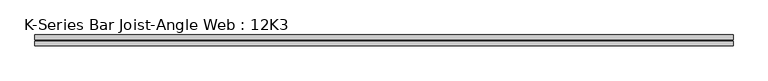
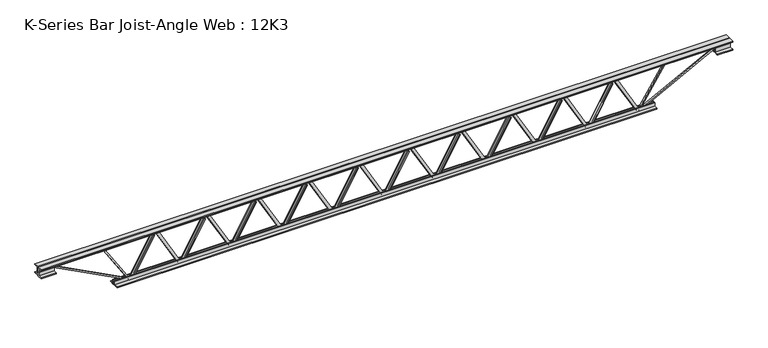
"""IFC4 building model written with IfcOpenShell, lengths in millimetres: beam geometry, K-Series Bar Joist-Angle Web : 12K3."""

from ifc_helpers import new_model, si_unit, frame, origin, place, context, project, spatial, polyline, outline, extrude, faceted_brep, source, transform, mapped, element, save


def k_series_bar_joist_angle_web_12k3_374ad39a(model_context):
    return source(origin(), model_context, "Body", "SolidModel", [
        extrude(outline(polyline([(-4.7625, 4.7625001), (-4.7625, 0.0), (-17.4625, 0.0), (-17.4625, 4.7625001), (-4.7625, 4.7625001)])), frame((1334.2159255, 0.0, -114.3), z_axis=(-0.4921387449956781, 0.0, 0.8705167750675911), x_axis=(0.0, -1.0, 0.0)), (0.0, 0.0, 1.0), 262.6026362),
        extrude(outline(polyline([(-149.225, 1365.8673611), (-130.175, 1365.8673611), (-130.175, 1365.0742655), (149.225, 1207.1180155), (149.225, 1188.8611111), (130.175, 1188.8611111), (130.175, 1196.0042068), (-149.225, 1353.9604568), (-149.225, 1365.8673611)])), frame((0.0, 0.0, 0.0), z_axis=(0.0, 1.0, 0.0), x_axis=(0.0, 0.0, 1.0)), (0.0, 0.0, 1.0), 4.7625),
        faceted_brep([(1024.5548611, 0.0, -130.175), (1024.5548611, 0.0, -149.225), (1024.5548611, -4.7625, -149.225), (1024.5548611, -4.7625, -130.175), (1025.3479568, 0.0, -130.175), (1183.3042068, 0.0, 149.225), (1201.5611111, 0.0, 149.225), (1201.5611111, 0.0, 130.175), (1194.4180155, 0.0, 130.175), (1036.4617655, 0.0, -149.225), (1036.4617655, -4.7625, -149.225), (1056.2062967, -4.7625, -114.3), (1052.0604606, -4.7625, -111.9561892), (1181.2973924, -4.7625, 116.6438108), (1185.4432285, -4.7625, 114.3), (1194.4180155, -4.7625, 130.175), (1201.5611111, -4.7625, 130.175), (1201.5611111, -4.7625, 149.225), (1183.3042068, -4.7625, 149.225), (1025.3479568, -4.7625, -130.175), (1185.4432285, -17.4625, 114.3), (1056.2062967, -17.4625, -114.3), (1052.0604606, -17.4625, -111.9561892), (1181.2973924, -17.4625, 116.6438108)], [[[0, 1, 2, 3]], [[1, 0, 4, 5, 6, 7, 8, 9]], [[2, 1, 9, 10]], [[3, 2, 10, 11, 12, 13, 14, 15, 16, 17, 18, 19]], [[0, 3, 19, 4]], [[9, 8, 15, 14, 20, 21, 11, 10]], [[5, 4, 19, 18]], [[7, 6, 17, 16]], [[8, 7, 16, 15]], [[6, 5, 18, 17]], [[21, 22, 12, 11]], [[20, 14, 13, 23]], [[22, 21, 20, 23]], [[12, 22, 23, 13]]]),
        extrude(outline(polyline([(-4.7625, 4.7625001), (-4.7625, 0.0), (-17.4625, 0.0), (-17.4625, 4.7625001), (-4.7625, 4.7625001)])), frame((992.7270366, 0.0, -114.3), z_axis=(-0.4921387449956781, 0.0, 0.8705167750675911), x_axis=(0.0, -1.0, 0.0)), (0.0, 0.0, 1.0), 262.6026362),
        extrude(outline(polyline([(-149.225, 1024.3784722), (-130.175, 1024.3784722), (-130.175, 1023.5853766), (149.225, 865.6291266), (149.225, 847.3722222), (130.175, 847.3722222), (130.175, 854.5153179), (-149.225, 1012.4715679), (-149.225, 1024.3784722)])), frame((0.0, 0.0, 0.0), z_axis=(0.0, 1.0, 0.0), x_axis=(0.0, 0.0, 1.0)), (0.0, 0.0, 1.0), 4.7625),
        faceted_brep([(683.0659722, 0.0, -130.175), (683.0659722, 0.0, -149.225), (683.0659722, -4.7625, -149.225), (683.0659722, -4.7625, -130.175), (683.8590679, 0.0, -130.175), (841.8153179, 0.0, 149.225), (860.0722222, 0.0, 149.225), (860.0722222, 0.0, 130.175), (852.9291266, 0.0, 130.175), (694.9728766, 0.0, -149.225), (694.9728766, -4.7625, -149.225), (714.7174078, -4.7625, -114.3), (710.5715717, -4.7625, -111.9561892), (839.8085035, -4.7625, 116.6438108), (843.9543396, -4.7625, 114.3), (852.9291266, -4.7625, 130.175), (860.0722222, -4.7625, 130.175), (860.0722222, -4.7625, 149.225), (841.8153179, -4.7625, 149.225), (683.8590679, -4.7625, -130.175), (843.9543396, -17.4625, 114.3), (714.7174078, -17.4625, -114.3), (710.5715717, -17.4625, -111.9561892), (839.8085035, -17.4625, 116.6438108)], [[[0, 1, 2, 3]], [[1, 0, 4, 5, 6, 7, 8, 9]], [[2, 1, 9, 10]], [[3, 2, 10, 11, 12, 13, 14, 15, 16, 17, 18, 19]], [[0, 3, 19, 4]], [[9, 8, 15, 14, 20, 21, 11, 10]], [[5, 4, 19, 18]], [[7, 6, 17, 16]], [[8, 7, 16, 15]], [[6, 5, 18, 17]], [[21, 22, 12, 11]], [[20, 14, 13, 23]], [[22, 21, 20, 23]], [[12, 22, 23, 13]]]),
        extrude(outline(polyline([(-4.7625, 4.7625001), (-4.7625, 0.0), (-17.4625, 0.0), (-17.4625, 4.7625001), (-4.7625, 4.7625001)])), frame((651.2381477, 0.0, -114.3), z_axis=(-0.4921387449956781, 0.0, 0.8705167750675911), x_axis=(0.0, -1.0, 0.0)), (0.0, 0.0, 1.0), 262.6026362),
        extrude(outline(polyline([(-149.225, 682.8895833), (-130.175, 682.8895833), (-130.175, 682.0964877), (149.225, 524.1402377), (149.225, 505.8833333), (130.175, 505.8833333), (130.175, 513.026429), (-149.225, 670.982679), (-149.225, 682.8895833)])), frame((0.0, 0.0, 0.0), z_axis=(0.0, 1.0, 0.0), x_axis=(0.0, 0.0, 1.0)), (0.0, 0.0, 1.0), 4.7625),
        faceted_brep([(341.5770833, 0.0, -130.175), (341.5770833, 0.0, -149.225), (341.5770833, -4.7625, -149.225), (341.5770833, -4.7625, -130.175), (342.370179, 0.0, -130.175), (500.326429, 0.0, 149.225), (518.5833333, 0.0, 149.225), (518.5833333, 0.0, 130.175), (511.4402377, 0.0, 130.175), (353.4839877, 0.0, -149.225), (353.4839877, -4.7625, -149.225), (373.2285189, -4.7625, -114.3), (369.0826828, -4.7625, -111.9561892), (498.3196146, -4.7625, 116.6438108), (502.4654508, -4.7625, 114.3), (511.4402377, -4.7625, 130.175), (518.5833333, -4.7625, 130.175), (518.5833333, -4.7625, 149.225), (500.326429, -4.7625, 149.225), (342.370179, -4.7625, -130.175), (502.4654508, -17.4625, 114.3), (373.2285189, -17.4625, -114.3), (369.0826828, -17.4625, -111.9561892), (498.3196146, -17.4625, 116.6438108)], [[[0, 1, 2, 3]], [[1, 0, 4, 5, 6, 7, 8, 9]], [[2, 1, 9, 10]], [[3, 2, 10, 11, 12, 13, 14, 15, 16, 17, 18, 19]], [[0, 3, 19, 4]], [[9, 8, 15, 14, 20, 21, 11, 10]], [[5, 4, 19, 18]], [[7, 6, 17, 16]], [[8, 7, 16, 15]], [[6, 5, 18, 17]], [[21, 22, 12, 11]], [[20, 14, 13, 23]], [[22, 21, 20, 23]], [[12, 22, 23, 13]]]),
        extrude(outline(polyline([(-4.7625, 4.7625001), (-4.7625, 0.0), (-17.4625, 0.0), (-17.4625, 4.7625001), (-4.7625, 4.7625001)])), frame((309.7492588, 0.0, -114.3), z_axis=(-0.4921387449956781, 0.0, 0.8705167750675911), x_axis=(0.0, -1.0, 0.0)), (0.0, 0.0, 1.0), 262.6026362),
        extrude(outline(polyline([(-149.225, 341.4006944), (-130.175, 341.4006944), (-130.175, 340.6075988), (149.225, 182.6513488), (149.225, 164.3944444), (130.175, 164.3944444), (130.175, 171.5375401), (-149.225, 329.4937901), (-149.225, 341.4006944)])), frame((0.0, 0.0, 0.0), z_axis=(0.0, 1.0, 0.0), x_axis=(0.0, 0.0, 1.0)), (0.0, 0.0, 1.0), 4.7625),
        faceted_brep([(0.0881944, 0.0, -130.175), (0.0881944, 0.0, -149.225), (0.0881944, -4.7625, -149.225), (0.0881944, -4.7625, -130.175), (0.8812901, 0.0, -130.175), (158.8375401, 0.0, 149.225), (177.0944444, 0.0, 149.225), (177.0944444, 0.0, 130.175), (169.9513488, 0.0, 130.175), (11.9950988, 0.0, -149.225), (11.9950988, -4.7625, -149.225), (31.73963, -4.7625, -114.3), (27.5937939, -4.7625, -111.9561892), (156.8307257, -4.7625, 116.6438108), (160.9765619, -4.7625, 114.3), (169.9513488, -4.7625, 130.175), (177.0944444, -4.7625, 130.175), (177.0944444, -4.7625, 149.225), (158.8375401, -4.7625, 149.225), (0.8812901, -4.7625, -130.175), (160.9765619, -17.4625, 114.3), (31.73963, -17.4625, -114.3), (27.5937939, -17.4625, -111.9561892), (156.8307257, -17.4625, 116.6438108)], [[[0, 1, 2, 3]], [[1, 0, 4, 5, 6, 7, 8, 9]], [[2, 1, 9, 10]], [[3, 2, 10, 11, 12, 13, 14, 15, 16, 17, 18, 19]], [[0, 3, 19, 4]], [[9, 8, 15, 14, 20, 21, 11, 10]], [[5, 4, 19, 18]], [[7, 6, 17, 16]], [[8, 7, 16, 15]], [[6, 5, 18, 17]], [[21, 22, 12, 11]], [[20, 14, 13, 23]], [[22, 21, 20, 23]], [[12, 22, 23, 13]]]),
        extrude(outline(polyline([(-4.7625, 4.7625), (-4.7625, 0.0), (-17.4625, 0.0), (-17.4625, 4.7625), (-4.7625, 4.7625)])), frame((-31.73963, 0.0, -114.3), z_axis=(-0.4921387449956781, 0.0, 0.8705167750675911), x_axis=(0.0, -1.0, 0.0)), (0.0, 0.0, 1.0), 262.6026362),
        extrude(outline(polyline([(-149.225, -0.0881944), (-130.175, -0.0881944), (-130.175, -0.8812901), (149.225, -158.8375401), (149.225, -177.0944444), (130.175, -177.0944444), (130.175, -169.9513488), (-149.225, -11.9950988), (-149.225, -0.0881944)])), frame((0.0, 0.0, 0.0), z_axis=(0.0, 1.0, 0.0), x_axis=(0.0, 0.0, 1.0)), (0.0, 0.0, 1.0), 4.7625),
        faceted_brep([(-341.4006944, 0.0, -130.175), (-341.4006944, 0.0, -149.225), (-341.4006944, -4.7625, -149.225), (-341.4006944, -4.7625, -130.175), (-340.6075988, 0.0, -130.175), (-182.6513488, 0.0, 149.225), (-164.3944444, 0.0, 149.225), (-164.3944444, 0.0, 130.175), (-171.5375401, 0.0, 130.175), (-329.4937901, 0.0, -149.225), (-329.4937901, -4.7625, -149.225), (-309.7492588, -4.7625, -114.3), (-313.895095, -4.7625, -111.9561892), (-184.6581632, -4.7625, 116.6438108), (-180.512327, -4.7625, 114.3), (-171.5375401, -4.7625, 130.175), (-164.3944444, -4.7625, 130.175), (-164.3944444, -4.7625, 149.225), (-182.6513488, -4.7625, 149.225), (-340.6075988, -4.7625, -130.175), (-180.512327, -17.4625, 114.3), (-309.7492588, -17.4625, -114.3), (-313.895095, -17.4625, -111.9561892), (-184.6581632, -17.4625, 116.6438108)], [[[0, 1, 2, 3]], [[1, 0, 4, 5, 6, 7, 8, 9]], [[2, 1, 9, 10]], [[3, 2, 10, 11, 12, 13, 14, 15, 16, 17, 18, 19]], [[0, 3, 19, 4]], [[9, 8, 15, 14, 20, 21, 11, 10]], [[5, 4, 19, 18]], [[7, 6, 17, 16]], [[8, 7, 16, 15]], [[6, 5, 18, 17]], [[21, 22, 12, 11]], [[20, 14, 13, 23]], [[22, 21, 20, 23]], [[12, 22, 23, 13]]]),
        extrude(outline(polyline([(-4.7625, 4.7625), (-4.7625, 0.0), (-17.4625, 0.0), (-17.4625, 4.7625), (-4.7625, 4.7625)])), frame((-373.2285189, 0.0, -114.3), z_axis=(-0.4921387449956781, 0.0, 0.8705167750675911), x_axis=(0.0, -1.0, 0.0)), (0.0, 0.0, 1.0), 262.6026362),
        extrude(outline(polyline([(-149.225, -341.5770833), (-130.175, -341.5770833), (-130.175, -342.370179), (149.225, -500.326429), (149.225, -518.5833333), (130.175, -518.5833333), (130.175, -511.4402377), (-149.225, -353.4839877), (-149.225, -341.5770833)])), frame((0.0, 0.0, 0.0), z_axis=(0.0, 1.0, 0.0), x_axis=(0.0, 0.0, 1.0)), (0.0, 0.0, 1.0), 4.7625),
        faceted_brep([(-682.8895833, 0.0, -130.175), (-682.8895833, 0.0, -149.225), (-682.8895833, -4.7625, -149.225), (-682.8895833, -4.7625, -130.175), (-682.0964877, 0.0, -130.175), (-524.1402377, 0.0, 149.225), (-505.8833333, 0.0, 149.225), (-505.8833333, 0.0, 130.175), (-513.026429, 0.0, 130.175), (-670.982679, 0.0, -149.225), (-670.982679, -4.7625, -149.225), (-651.2381477, -4.7625, -114.3), (-655.3839839, -4.7625, -111.9561892), (-526.1470521, -4.7625, 116.6438108), (-522.0012159, -4.7625, 114.3), (-513.026429, -4.7625, 130.175), (-505.8833333, -4.7625, 130.175), (-505.8833333, -4.7625, 149.225), (-524.1402377, -4.7625, 149.225), (-682.0964877, -4.7625, -130.175), (-522.0012159, -17.4625, 114.3), (-651.2381477, -17.4625, -114.3), (-655.3839839, -17.4625, -111.9561892), (-526.1470521, -17.4625, 116.6438108)], [[[0, 1, 2, 3]], [[1, 0, 4, 5, 6, 7, 8, 9]], [[2, 1, 9, 10]], [[3, 2, 10, 11, 12, 13, 14, 15, 16, 17, 18, 19]], [[0, 3, 19, 4]], [[9, 8, 15, 14, 20, 21, 11, 10]], [[5, 4, 19, 18]], [[7, 6, 17, 16]], [[8, 7, 16, 15]], [[6, 5, 18, 17]], [[21, 22, 12, 11]], [[20, 14, 13, 23]], [[22, 21, 20, 23]], [[12, 22, 23, 13]]]),
        extrude(outline(polyline([(-4.7625, 4.7625), (-4.7625, 0.0), (-17.4625, 0.0), (-17.4625, 4.7625), (-4.7625, 4.7625)])), frame((-714.7174078, 0.0, -114.3), z_axis=(-0.4921387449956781, 0.0, 0.8705167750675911), x_axis=(0.0, -1.0, 0.0)), (0.0, 0.0, 1.0), 262.6026362),
        extrude(outline(polyline([(-149.225, -683.0659722), (-130.175, -683.0659722), (-130.175, -683.8590679), (149.225, -841.8153179), (149.225, -860.0722222), (130.175, -860.0722222), (130.175, -852.9291266), (-149.225, -694.9728766), (-149.225, -683.0659722)])), frame((0.0, 0.0, 0.0), z_axis=(0.0, 1.0, 0.0), x_axis=(0.0, 0.0, 1.0)), (0.0, 0.0, 1.0), 4.7625),
        faceted_brep([(-1024.3784722, 0.0, -130.175), (-1024.3784722, 0.0, -149.225), (-1024.3784722, -4.7625, -149.225), (-1024.3784722, -4.7625, -130.175), (-1023.5853766, 0.0, -130.175), (-865.6291266, 0.0, 149.225), (-847.3722222, 0.0, 149.225), (-847.3722222, 0.0, 130.175), (-854.5153179, 0.0, 130.175), (-1012.4715679, 0.0, -149.225), (-1012.4715679, -4.7625, -149.225), (-992.7270366, -4.7625, -114.3), (-996.8728728, -4.7625, -111.9561892), (-867.6359409, -4.7625, 116.6438108), (-863.4901048, -4.7625, 114.3), (-854.5153179, -4.7625, 130.175), (-847.3722222, -4.7625, 130.175), (-847.3722222, -4.7625, 149.225), (-865.6291266, -4.7625, 149.225), (-1023.5853766, -4.7625, -130.175), (-863.4901048, -17.4625, 114.3), (-992.7270366, -17.4625, -114.3), (-996.8728728, -17.4625, -111.9561892), (-867.6359409, -17.4625, 116.6438108)], [[[0, 1, 2, 3]], [[1, 0, 4, 5, 6, 7, 8, 9]], [[2, 1, 9, 10]], [[3, 2, 10, 11, 12, 13, 14, 15, 16, 17, 18, 19]], [[0, 3, 19, 4]], [[9, 8, 15, 14, 20, 21, 11, 10]], [[5, 4, 19, 18]], [[7, 6, 17, 16]], [[8, 7, 16, 15]], [[6, 5, 18, 17]], [[21, 22, 12, 11]], [[20, 14, 13, 23]], [[22, 21, 20, 23]], [[12, 22, 23, 13]]]),
        extrude(outline(polyline([(-4.7625, 4.7625), (-4.7625, 0.0), (-17.4625, 0.0), (-17.4625, 4.7625), (-4.7625, 4.7625)])), frame((-1056.2062967, 0.0, -114.3), z_axis=(-0.4921387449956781, 0.0, 0.8705167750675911), x_axis=(0.0, -1.0, 0.0)), (0.0, 0.0, 1.0), 262.6026362),
        extrude(outline(polyline([(-149.225, -1024.5548611), (-130.175, -1024.5548611), (-130.175, -1025.3479568), (149.225, -1183.3042068), (149.225, -1201.5611111), (130.175, -1201.5611111), (130.175, -1194.4180155), (-149.225, -1036.4617655), (-149.225, -1024.5548611)])), frame((0.0, 0.0, 0.0), z_axis=(0.0, 1.0, 0.0), x_axis=(0.0, 0.0, 1.0)), (0.0, 0.0, 1.0), 4.7625),
        faceted_brep([(-1365.8673611, 0.0, -130.175), (-1365.8673611, 0.0, -149.225), (-1365.8673611, -4.7625, -149.225), (-1365.8673611, -4.7625, -130.175), (-1365.0742655, 0.0, -130.175), (-1207.1180155, 0.0, 149.225), (-1188.8611111, 0.0, 149.225), (-1188.8611111, 0.0, 130.175), (-1196.0042068, 0.0, 130.175), (-1353.9604568, 0.0, -149.225), (-1353.9604568, -4.7625, -149.225), (-1334.2159255, -4.7625, -114.3), (-1338.3617617, -4.7625, -111.9561892), (-1209.1248298, -4.7625, 116.6438108), (-1204.9789937, -4.7625, 114.3), (-1196.0042068, -4.7625, 130.175), (-1188.8611111, -4.7625, 130.175), (-1188.8611111, -4.7625, 149.225), (-1207.1180155, -4.7625, 149.225), (-1365.0742655, -4.7625, -130.175), (-1204.9789937, -17.4625, 114.3), (-1334.2159255, -17.4625, -114.3), (-1338.3617617, -17.4625, -111.9561892), (-1209.1248298, -17.4625, 116.6438108)], [[[0, 1, 2, 3]], [[1, 0, 4, 5, 6, 7, 8, 9]], [[2, 1, 9, 10]], [[3, 2, 10, 11, 12, 13, 14, 15, 16, 17, 18, 19]], [[0, 3, 19, 4]], [[9, 8, 15, 14, 20, 21, 11, 10]], [[5, 4, 19, 18]], [[7, 6, 17, 16]], [[8, 7, 16, 15]], [[6, 5, 18, 17]], [[21, 22, 12, 11]], [[20, 14, 13, 23]], [[22, 21, 20, 23]], [[12, 22, 23, 13]]]),
        extrude(outline(polyline([(-4.7625, 4.7625), (-4.7625, 0.0), (-17.4625, 0.0), (-17.4625, 4.7625), (-4.7625, 4.7625)])), frame((1675.7048144, 0.0, -114.3), z_axis=(-0.4921387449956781, 0.0, 0.8705167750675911), x_axis=(0.0, -1.0, 0.0)), (0.0, 0.0, 1.0), 262.6026362),
        extrude(outline(polyline([(-149.225, 1707.35625), (-130.175, 1707.35625), (-130.175, 1706.5631543), (149.225, 1548.6069043), (149.225, 1530.35), (130.175, 1530.35), (130.175, 1537.4930957), (-149.225, 1695.4493457), (-149.225, 1707.35625)])), frame((0.0, 0.0, 0.0), z_axis=(0.0, 1.0, 0.0), x_axis=(0.0, 0.0, 1.0)), (0.0, 0.0, 1.0), 4.7625),
        faceted_brep([(1366.04375, 0.0, -130.175), (1366.04375, 0.0, -149.225), (1366.04375, -4.7625, -149.225), (1366.04375, -4.7625, -130.175), (1366.8368457, 0.0, -130.175), (1524.7930957, 0.0, 149.225), (1543.05, 0.0, 149.225), (1543.05, 0.0, 130.175), (1535.9069043, 0.0, 130.175), (1377.9506543, 0.0, -149.225), (1377.9506543, -4.7625, -149.225), (1397.6951856, -4.7625, -114.3), (1393.5493495, -4.7625, -111.9561892), (1522.7862813, -4.7625, 116.6438108), (1526.9321174, -4.7625, 114.3), (1535.9069043, -4.7625, 130.175), (1543.05, -4.7625, 130.175), (1543.05, -4.7625, 149.225), (1524.7930957, -4.7625, 149.225), (1366.8368457, -4.7625, -130.175), (1526.9321174, -17.4625, 114.3), (1397.6951856, -17.4625, -114.3), (1393.5493495, -17.4625, -111.9561892), (1522.7862813, -17.4625, 116.6438108)], [[[0, 1, 2, 3]], [[1, 0, 4, 5, 6, 7, 8, 9]], [[2, 1, 9, 10]], [[3, 2, 10, 11, 12, 13, 14, 15, 16, 17, 18, 19]], [[0, 3, 19, 4]], [[9, 8, 15, 14, 20, 21, 11, 10]], [[5, 4, 19, 18]], [[7, 6, 17, 16]], [[8, 7, 16, 15]], [[6, 5, 18, 17]], [[21, 22, 12, 11]], [[20, 14, 13, 23]], [[22, 21, 20, 23]], [[12, 22, 23, 13]]]),
        extrude(outline(polyline([(-4.7625, 4.7625), (-4.7625, 0.0), (-17.4625, 0.0), (-17.4625, 4.7625), (-4.7625, 4.7625)])), frame((-1397.6951856, 0.0, -114.3), z_axis=(-0.4921387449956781, 0.0, 0.8705167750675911), x_axis=(0.0, -1.0, 0.0)), (0.0, 0.0, 1.0), 262.6026362),
        extrude(outline(polyline([(-149.225, -1366.04375), (-130.175, -1366.04375), (-130.175, -1366.8368457), (149.225, -1524.7930957), (149.225, -1543.05), (130.175, -1543.05), (130.175, -1535.9069043), (-149.225, -1377.9506543), (-149.225, -1366.04375)])), frame((0.0, 0.0, 0.0), z_axis=(0.0, 1.0, 0.0), x_axis=(0.0, 0.0, 1.0)), (0.0, 0.0, 1.0), 4.7625),
        faceted_brep([(-1707.35625, 0.0, -130.175), (-1707.35625, 0.0, -149.225), (-1707.35625, -4.7625, -149.225), (-1707.35625, -4.7625, -130.175), (-1706.5631543, 0.0, -130.175), (-1548.6069043, 0.0, 149.225), (-1530.35, 0.0, 149.225), (-1530.35, 0.0, 130.175), (-1537.4930957, 0.0, 130.175), (-1695.4493457, 0.0, -149.225), (-1695.4493457, -4.7625, -149.225), (-1675.7048144, -4.7625, -114.3), (-1679.8506505, -4.7625, -111.9561892), (-1550.6137187, -4.7625, 116.6438108), (-1546.4678826, -4.7625, 114.3), (-1537.4930957, -4.7625, 130.175), (-1530.35, -4.7625, 130.175), (-1530.35, -4.7625, 149.225), (-1548.6069043, -4.7625, 149.225), (-1706.5631543, -4.7625, -130.175), (-1546.4678826, -17.4625, 114.3), (-1675.7048144, -17.4625, -114.3), (-1679.8506505, -17.4625, -111.9561892), (-1550.6137187, -17.4625, 116.6438108)], [[[0, 1, 2, 3]], [[1, 0, 4, 5, 6, 7, 8, 9]], [[2, 1, 9, 10]], [[3, 2, 10, 11, 12, 13, 14, 15, 16, 17, 18, 19]], [[0, 3, 19, 4]], [[9, 8, 15, 14, 20, 21, 11, 10]], [[5, 4, 19, 18]], [[7, 6, 17, 16]], [[8, 7, 16, 15]], [[6, 5, 18, 17]], [[21, 22, 12, 11]], [[20, 14, 13, 23]], [[22, 21, 20, 23]], [[12, 22, 23, 13]]]),
        extrude(outline(polyline([(4.7625, 152.4), (36.5125, 152.4), (36.5125, 146.05), (11.1125, 146.05), (11.1125, 120.65), (4.7625, 120.65), (4.7625, 152.4)])), frame((-2316.95625, 0.0, 0.0), z_axis=(1.0, 0.0, 0.0), x_axis=(0.0, 1.0, 0.0)), (0.0, 0.0, 1.0), 4633.9125),
        extrude(outline(polyline([(-4.7625, 152.4), (-4.7625, 120.65), (-11.1125, 120.65), (-11.1125, 146.05), (-36.5125, 146.05), (-36.5125, 152.4), (-4.7625, 152.4)])), frame((-2316.95625, 0.0, 0.0), z_axis=(1.0, 0.0, 0.0), x_axis=(0.0, 1.0, 0.0)), (0.0, 0.0, 1.0), 4633.9125),
        extrude(outline(polyline([(-4.7625, 88.9), (-36.5125, 88.9), (-36.5125, 95.25), (-11.1125, 95.25), (-11.1125, 120.65), (-4.7625, 120.65), (-4.7625, 88.9)])), frame((-2316.95625, 0.0, 0.0), z_axis=(1.0, 0.0, 0.0), x_axis=(0.0, 1.0, 0.0)), (0.0, 0.0, 1.0), 101.6),
        extrude(outline(polyline([(36.5125, 88.9), (4.7625, 88.9), (4.7625, 120.65), (11.1125, 120.65), (11.1125, 95.25), (36.5125, 95.25), (36.5125, 88.9)])), frame((-2316.95625, 0.0, 0.0), z_axis=(1.0, 0.0, 0.0), x_axis=(0.0, 1.0, 0.0)), (0.0, 0.0, 1.0), 101.6),
        extrude(outline(polyline([(4.7625, 88.9), (4.7625, 120.65), (11.1125, 120.65), (11.1125, 95.25), (36.5125, 95.25), (36.5125, 88.9), (4.7625, 88.9)])), frame((2215.35625, 0.0, 0.0), z_axis=(1.0, 0.0, 0.0), x_axis=(0.0, 1.0, 0.0)), (0.0, 0.0, 1.0), 101.6),
        extrude(outline(polyline([(-4.7625, 88.9), (-36.5125, 88.9), (-36.5125, 95.25), (-11.1125, 95.25), (-11.1125, 120.65), (-4.7625, 120.65), (-4.7625, 88.9)])), frame((2215.35625, 0.0, 0.0), z_axis=(1.0, 0.0, 0.0), x_axis=(0.0, 1.0, 0.0)), (0.0, 0.0, 1.0), 101.6),
        extrude(outline(polyline([(4.7625, -152.4), (4.7625, -120.65), (11.1125, -120.65), (11.1125, -146.05), (36.5125, -146.05), (36.5125, -152.4), (4.7625, -152.4)])), frame((-1808.95625, 0.0, 0.0), z_axis=(1.0, 0.0, 0.0), x_axis=(0.0, 1.0, 0.0)), (0.0, 0.0, 1.0), 3617.9125),
        extrude(outline(polyline([(-4.7625, -152.4), (-36.5125, -152.4), (-36.5125, -146.05), (-11.1125, -146.05), (-11.1125, -120.65), (-4.7625, -120.65), (-4.7625, -152.4)])), frame((-1808.95625, 0.0, 0.0), z_axis=(1.0, 0.0, 0.0), x_axis=(0.0, 1.0, 0.0)), (0.0, 0.0, 1.0), 3617.9125),
        extrude(outline(polyline([(4.7625, 4.7625), (4.7625, -4.7625), (-4.7625, -4.7625), (-4.7625, 4.7625), (4.7625, 4.7625)])), frame((1707.35625, 0.0, -146.05), z_axis=(0.5389825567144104, 0.0, 0.8423169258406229), x_axis=(0.0, -1.0, 0.0)), (0.0, 0.0, 1.0), 316.6266661),
        extrude(outline(polyline([(4.7625, 4.7625), (4.7625, -4.7625), (-4.7625, -4.7625), (-4.7625, 4.7625), (4.7625, 4.7625)])), frame((-1707.35625, 0.0, -146.05), z_axis=(-0.538982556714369, 0.0, 0.8423169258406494), x_axis=(0.0, -1.0, 0.0)), (0.0, 0.0, 1.0), 316.6266661),
        extrude(outline(polyline([(0.0, -9.525), (0.0, 0.0), (573.7533355, 0.0), (573.7533355, -9.525), (0.0, -9.525)])), frame((2217.5700214, -4.7625, 116.4332925), z_axis=(-0.4648338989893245, 0.0, 0.8853979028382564), x_axis=(-0.8853979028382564, 0.0, -0.4648338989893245)), (0.0, 0.0, 1.0), 9.525),
        extrude(outline(polyline([(0.0, -9.525), (0.0, 0.0), (573.7533355, 0.0), (573.7533355, -9.525), (0.0, -9.525)])), frame((-2217.5700214, 4.7625, 116.4332925), z_axis=(0.46483389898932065, 0.0, 0.8853979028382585), x_axis=(0.8853979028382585, 0.0, -0.46483389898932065)), (0.0, 0.0, 1.0), 9.525),
    ])


if __name__ == "__main__":
    model = new_model("IFC4")
    model_context = context("Model", 3, world=origin())
    ifc_project = project(units=[si_unit("LENGTHUNIT", "METRE", prefix="MILLI")], contexts=[model_context])
    site = spatial("IfcSite", under=ifc_project)
    building = spatial("IfcBuilding", under=site)
    placement = place(None, origin())
    k_series_bar_joist_angle_web_12k3_shape = k_series_bar_joist_angle_web_12k3_374ad39a(model_context)
    element("IfcBeam", 1, ObjectType="K-Series Bar Joist-Angle Web : 12K3", at=placement, inside=building, context=model_context, shape_type="MappedRepresentation", body=[
        mapped(k_series_bar_joist_angle_web_12k3_shape, transform((0.0, 0.0, 0.0), x_axis=(1.0, 0.0, 0.0), y_axis=(0.0, 1.0, 0.0), z_axis=(0.0, 0.0, 1.0))),
    ])
    save(model, "model.ifc")
